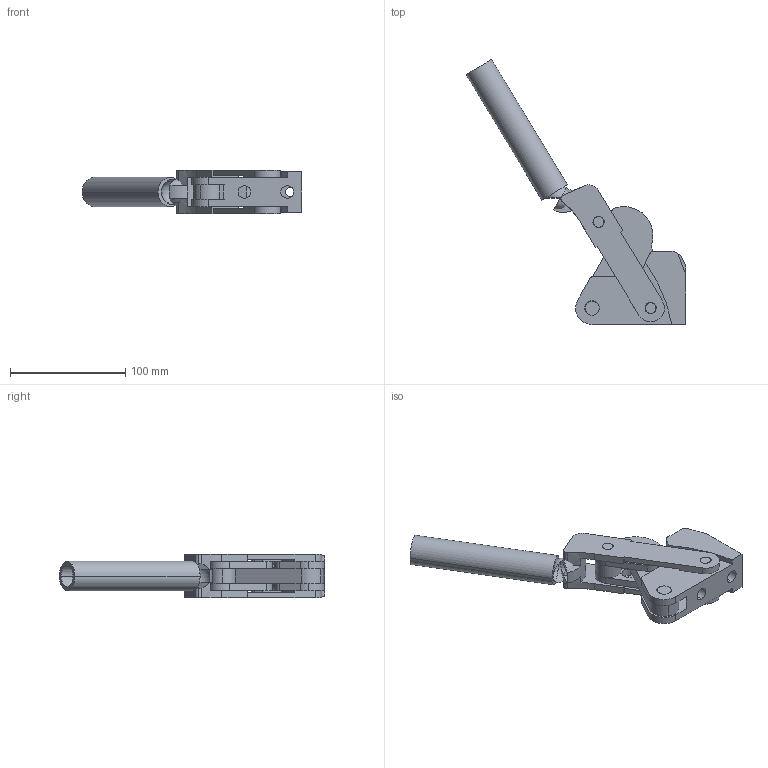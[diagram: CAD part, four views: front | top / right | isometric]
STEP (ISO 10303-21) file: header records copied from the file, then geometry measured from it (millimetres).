
FILE_DESCRIPTION( ( '' ), '1' );
FILE_NAME( 'C:\Documents and Settings\Richard Grenzke\My Documents\Wolverine Company Data\WOLVERINE CD 5_17_05\SOLIDS STEP\heavy_duty_compact\lyt1019.stp', ' ', ( '' ), ( '' ), 'ACIS Interop R16', 'Kubotek KeyCreator V5.5.1 (0454)', ' ' );
FILE_SCHEMA( ( 'CONFIG_CONTROL_DESIGN' ) );
Length unit declared in the file: inch
Products named in the file (9): 1; 2; 3; 4; 5; 6; 7; 8; 9
Bounding box: 190.46 x 229.85 x 38.1 mm (x, y, z)
Volume: 218840.8 mm3; surface area: 89240.7 mm2
Topology: 9 solids, 9 shells, 208 faces, 553 edges, 361 vertices
Faces by surface type: plane 107, cylinder 95, cone 4, sphere 2
Entity records: 7036 total; most frequent: CARTESIAN_POINT 1207, DIRECTION 1206, ORIENTED_EDGE 1098, EDGE_CURVE 549, AXIS2_PLACEMENT_3D 452, VERTEX_POINT 361, LINE 302, VECTOR 302
